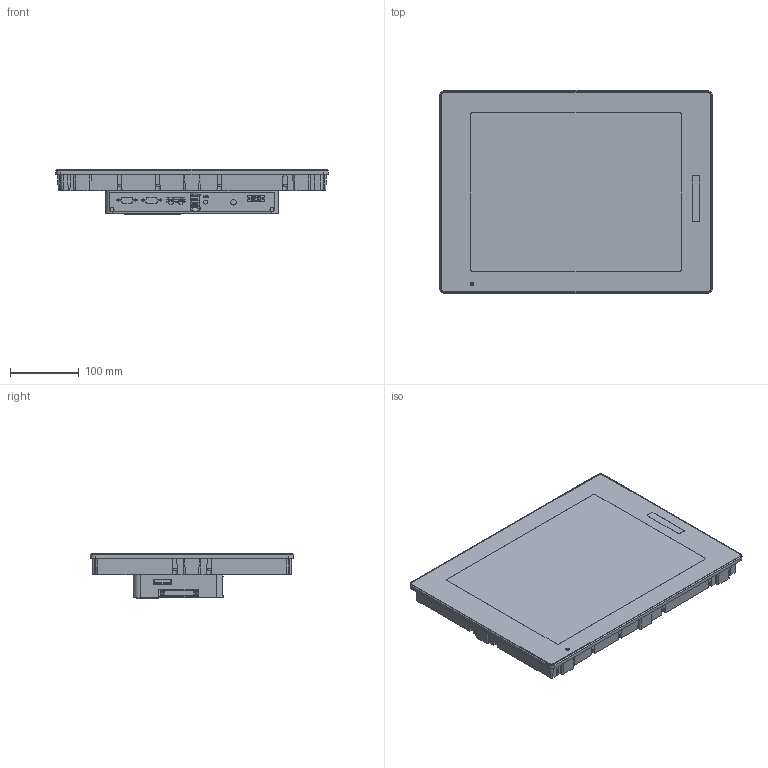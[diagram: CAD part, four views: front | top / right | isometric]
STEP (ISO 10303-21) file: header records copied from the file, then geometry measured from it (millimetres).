
FILE_DESCRIPTION (( 'STEP AP203' ), '1' );
FILE_NAME ('PFXGP6740TMAI_3D_simpl.STEP', '2024-05-29T15:08:15', ( '' ), ( '' ), 'SwSTEP 2.0', 'SolidWorks 2017', '' );
FILE_SCHEMA (( 'CONFIG_CONTROL_DESIGN' ));
Products named in the file (1): PFXGP6740TMAI_3D_simpl
Bounding box: 397 x 296 x 64.28 mm (x, y, z)
Volume: 4331469.9 mm3; surface area: 355855.5 mm2
Topology: 11 solids, 22 shells, 2721 faces, 7597 edges, 5003 vertices
Faces by surface type: plane 1979, cylinder 554, bspline 127, cone 40, torus 14, sphere 7
Full cylindrical faces by diameter (mm): 2.5 x2, 2.8 x1, 2.845 x4, 3.5 x8, 3.6 x1, 4 x8, 4.1 x16, 5 x1, 5.6 x28, 7.08 x3, 7.157 x4, 8 x9, 8.454 x6
Entity records: 98309 total; most frequent: CARTESIAN_POINT 30252, ORIENTED_EDGE 14892, DIRECTION 12705, EDGE_CURVE 7446, LINE 5761, VECTOR 5761, VERTEX_POINT 4971, AXIS2_PLACEMENT_3D 3472
